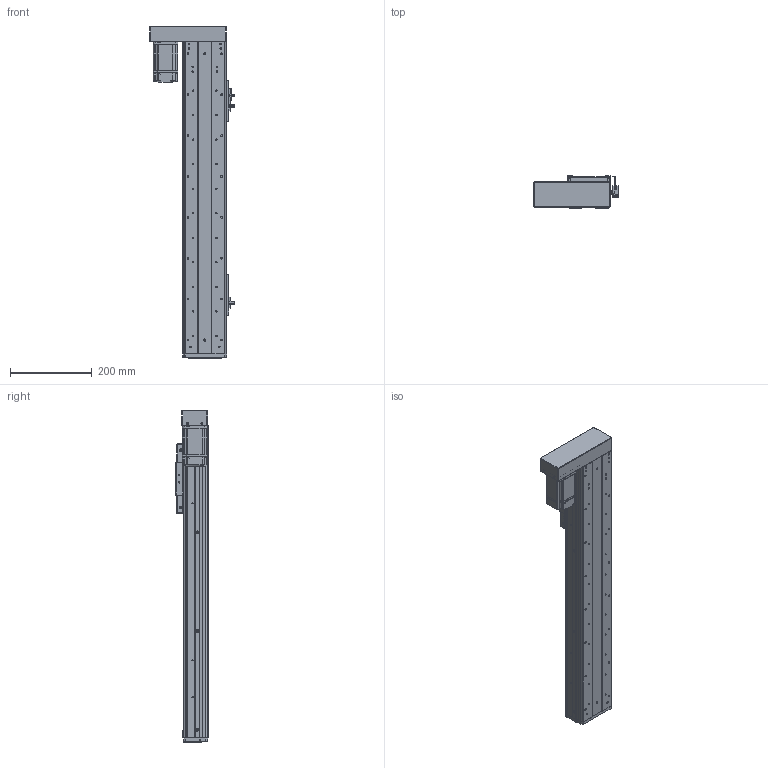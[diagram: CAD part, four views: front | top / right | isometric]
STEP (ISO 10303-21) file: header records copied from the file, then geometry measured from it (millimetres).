
FILE_DESCRIPTION (( 'STEP AP203' ), '1' );
FILE_NAME ('RY100FS-L1620-300-LK(15双轨).SLDASM_500.step', '2021-03-02T07:40:16', ( '盈信电脑' ), ( '东莞市道滘镇水果街19号' ), 'SwSTEP 2.0', 'SolidWorks 2012', '' );
FILE_SCHEMA (( 'CONFIG_CONTROL_DESIGN' ));
Products named in the file (21): 蚥薯蝶紫輸; RY100FS-L1620-300-LK(15邧寢).SLDASM_500; RY100FS-15邧寢蛌殏萇儂欶; RY100FS-15邧寢蛌殏萇儂啣; 滅袉蝶14-35; 1; RY100FS-15邧寢蛌殏萇儂釱; RY100F-詩湍揤踡輸; RY100FS-双轨螺母座(16丝杆）; 覜茼ん672; RY100F-詩湍揤踡謫; RY80俋离覜茼え; RY100F-綴裔啣; 672嫖萇羲壽假蚾釱; RY100F-詩湍幗謫粣; 棠沺沭; RY100F-滅鳥裔啣; RY100FS-双轨铝滑块(上板）; RY100FS-300-LK15邧寢祥凄詩湍_500; RY100FS-300-LK15絳寢倰第奻裔啣_500; RY100FS-300-LK15絳寢倰第菁釱_500
Assembly tree (29 placements, depth 2):
  RY100FS-L1620-300-LK(15邧寢).SLDASM_500
    RY100FS-300-LK15絳寢倰第菁釱_500
    RY100FS-300-LK15絳寢倰第奻裔啣_500  x2
    RY100FS-300-LK15邧寢祥凄詩湍_500
    RY100FS-双轨铝滑块(上板）
    RY100F-滅鳥裔啣
    棠沺沭  x2
    RY100F-詩湍幗謫粣
    RY100F-詩湍揤踡謫  x2
    RY100F-綴裔啣
    672嫖萇羲壽假蚾釱  x2
    RY80俋离覜茼え  x2
    覜茼ん672  x3
    RY100F-詩湍揤踡輸  x2
    RY100FS-双轨螺母座(16丝杆）
    RY100FS-15邧寢蛌殏萇儂釱
    滅袉蝶14-35
    1
    RY100FS-15邧寢蛌殏萇儂啣
    RY100FS-15邧寢蛌殏萇儂欶
    蚥薯蝶紫輸  x2
Bounding box: 207.3 x 78.5 x 812 mm (x, y, z)
Volume: 2148709.6 mm3; surface area: 901848.1 mm2
Topology: 29 solids, 29 shells, 2219 faces, 6004 edges, 3874 vertices
Faces by surface type: plane 1024, cylinder 994, cone 168, bspline 33
Entity records: 63172 total; most frequent: CARTESIAN_POINT 13130, DIRECTION 9997, ORIENTED_EDGE 9816, EDGE_CURVE 4908, AXIS2_PLACEMENT_3D 3536, VERTEX_POINT 3222, VECTOR 2925, LINE 2925
